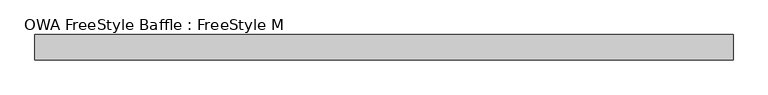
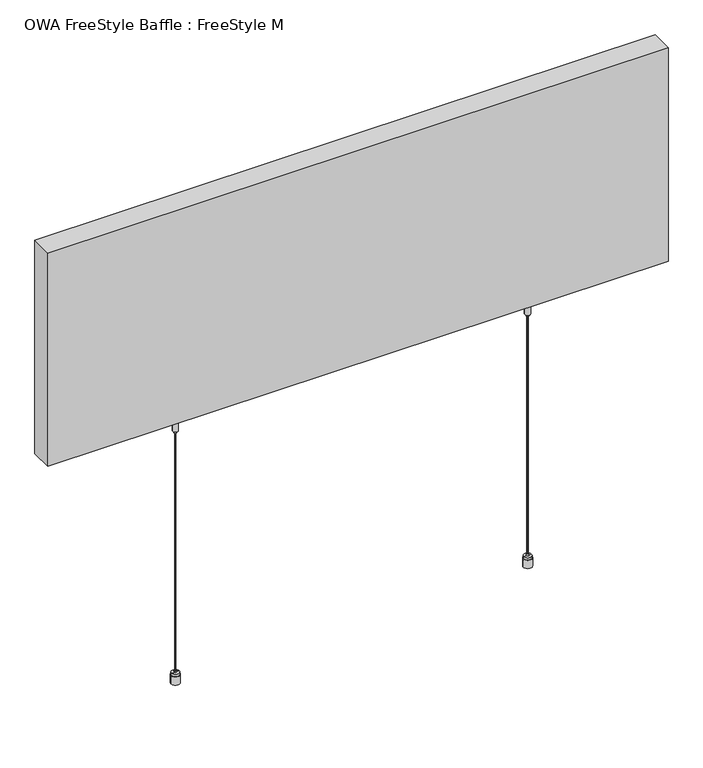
"""IFC4 building model written with IfcOpenShell, lengths in millimetres: proxy geometry, OWA FreeStyle Baffle : FreeStyle M."""

from ifc_helpers import new_model, si_unit, point, frame, frame_2d, origin, place, context, project, spatial, polyline, circle_curve, trimmed, segment, composite_curve, outline, extrude, source, transform, mapped, element, save
from ifc_brep_helpers import plane_surface, cylinder_surface, revolved_surface, advanced_brep


def owa_freestyle_baffle_freestyle_m_6130938e(model_context):
    return source(origin(), model_context, "Body", "SolidModel", [
        advanced_brep(
        [(-746.0, 0.0, 0.0), (-738.2593825, 0.0, 0.0), (-753.7406175, 0.0, 0.0), (-738.2593825, 0.0, 15.0), (-753.7406175, 0.0, 15.0), (-739.1843825, 0.0, 15.0), (-752.8156175, 0.0, 15.0), (-739.1843825, 0.0, 19.0), (-752.8156175, 0.0, 19.0), (-743.9343825, 0.0, 19.0), (-748.0656175, 0.0, 19.0), (-743.9343825, 0.0, 22.546183), (-748.0656175, 0.0, 22.546183), (-746.0, 0.0, 22.546183)],
        [
            (0, 1),
            (1, 2, circle_curve(frame((-746.0, 0.0, 0.0), z_axis=(0.0, 0.0, -1.0), x_axis=(-1.0, 0.0, 0.0)), 7.7406175)),
            (2, 0),
            (2, 1, circle_curve(frame((-746.0, 0.0, 0.0), z_axis=(0.0, 0.0, -1.0), x_axis=(-1.0, 0.0, 0.0)), 7.7406175)),
            (1, 3),
            (3, 4, circle_curve(frame((-746.0, 0.0, 15.0), z_axis=(0.0, 0.0, -1.0), x_axis=(-1.0, 0.0, 0.0)), 7.7406175)),
            (4, 2),
            (4, 3, circle_curve(frame((-746.0, 0.0, 15.0), z_axis=(0.0, 0.0, -1.0), x_axis=(-1.0, 0.0, 0.0)), 7.7406175)),
            (3, 5),
            (5, 6, circle_curve(frame((-746.0, 0.0, 15.0), z_axis=(0.0, 0.0, -1.0), x_axis=(-1.0, 0.0, 0.0)), 6.8156175)),
            (6, 4),
            (6, 5, circle_curve(frame((-746.0, 0.0, 15.0), z_axis=(0.0, 0.0, -1.0), x_axis=(-1.0, 0.0, 0.0)), 6.8156175)),
            (5, 7),
            (7, 8, circle_curve(frame((-746.0, 0.0, 19.0), z_axis=(0.0, 0.0, -1.0), x_axis=(-1.0, 0.0, 0.0)), 6.8156175)),
            (8, 6),
            (8, 7, circle_curve(frame((-746.0, 0.0, 19.0), z_axis=(0.0, 0.0, -1.0), x_axis=(-1.0, 0.0, 0.0)), 6.8156175)),
            (7, 9),
            (9, 10, circle_curve(frame((-746.0, 0.0, 19.0), z_axis=(0.0, 0.0, -1.0), x_axis=(-1.0, 0.0, 0.0)), 2.0656175)),
            (10, 8),
            (10, 9, circle_curve(frame((-746.0, 0.0, 19.0), z_axis=(0.0, 0.0, -1.0), x_axis=(-1.0, 0.0, 0.0)), 2.0656175)),
            (9, 11),
            (11, 12, circle_curve(frame((-746.0, 0.0, 22.546183), z_axis=(0.0, 0.0, -1.0), x_axis=(-1.0, 0.0, 0.0)), 2.0656175)),
            (12, 10),
            (12, 11, circle_curve(frame((-746.0, 0.0, 22.546183), z_axis=(0.0, 0.0, -1.0), x_axis=(-1.0, 0.0, 0.0)), 2.0656175)),
            (11, 13),
            (13, 12),
        ],
        [
            plane_surface(frame((-746.0, 0.0, 0.0), z_axis=(0.0, 0.0, -1.0), x_axis=(-1.0, 0.0, 0.0))),
            cylinder_surface(frame((-746.0, 0.0, -10.0), z_axis=(0.0, 0.0, -1.0), x_axis=(-1.0, 0.0, 0.0)), 7.7406175),
            plane_surface(frame((-746.0, 0.0, 15.0), z_axis=(0.0, 0.0, 1.0), x_axis=(-1.0, 0.0, 0.0))),
            cylinder_surface(frame((-746.0, 0.0, -10.0), z_axis=(0.0, 0.0, -1.0), x_axis=(-1.0, 0.0, 0.0)), 6.8156175),
            plane_surface(frame((-746.0, 0.0, 19.0), z_axis=(0.0, 0.0, 1.0), x_axis=(-1.0, 0.0, 0.0))),
            cylinder_surface(frame((-746.0, 0.0, -10.0), z_axis=(0.0, 0.0, -1.0), x_axis=(-1.0, 0.0, 0.0)), 2.0656175),
            plane_surface(frame((-746.0, 0.0, 22.546183), z_axis=(0.0, 0.0, 1.0), x_axis=(-1.0, 0.0, 0.0))),
        ],
        [
            (0, [[1, 2, 3]]),
            (0, [[-3, 4, -1]]),
            (1, [[5, 6, 7, -2]]),
            (1, [[-7, 8, -5, -4]]),
            (2, [[9, 10, 11, -6]]),
            (2, [[-11, 12, -9, -8]]),
            (3, [[13, 14, 15, -10]]),
            (3, [[-15, 16, -13, -12]]),
            (4, [[17, 18, 19, -14]]),
            (4, [[-19, 20, -17, -16]]),
            (5, [[21, 22, 23, -18]]),
            (5, [[-23, 24, -21, -20]]),
            (6, [[25, 26, -22]]),
            (6, [[-26, -25, -24]]),
        ],
    ),
        advanced_brep(
        [(-743.7615389, 0.0, 468.8211737), (-743.6339453, 0.0, 472.8711737), (-748.3660547, 0.0, 472.8711737), (-748.2384611, 0.0, 468.8211737), (-741.1339453, 0.0, 472.8711737), (-750.8660547, 0.0, 472.8711737), (-741.1339453, 0.0, 498.1211737), (-750.8660547, 0.0, 498.1211737), (-730.1339453, 0.0, 498.1211737), (-761.8660547, 0.0, 498.1211737), (-730.1339453, 0.0, 500.0), (-761.8660547, 0.0, 500.0), (-746.0, 0.0, 500.0), (-746.0, 0.0, 468.8211737)],
        [
            (0, 1),
            (1, 2, circle_curve(frame((-746.0, 0.0, 472.8711737), z_axis=(0.0, 0.0, -1.0), x_axis=(-1.0, 0.0, 0.0)), 2.3660547)),
            (2, 3),
            (3, 0, circle_curve(frame((-746.0, 0.0, 468.8211737), z_axis=(0.0, 0.0, 1.0), x_axis=(-1.0, 0.0, 0.0)), 2.2384611)),
            (2, 1, circle_curve(frame((-746.0, 0.0, 472.8711737), z_axis=(0.0, 0.0, -1.0), x_axis=(-1.0, 0.0, 0.0)), 2.3660547)),
            (0, 3, circle_curve(frame((-746.0, 0.0, 468.8211737), z_axis=(0.0, 0.0, 1.0), x_axis=(-1.0, 0.0, 0.0)), 2.2384611)),
            (1, 4),
            (4, 5, circle_curve(frame((-746.0, 0.0, 472.8711737), z_axis=(0.0, 0.0, -1.0), x_axis=(-1.0, 0.0, 0.0)), 4.8660547)),
            (5, 2),
            (5, 4, circle_curve(frame((-746.0, 0.0, 472.8711737), z_axis=(0.0, 0.0, -1.0), x_axis=(-1.0, 0.0, 0.0)), 4.8660547)),
            (4, 6),
            (6, 7, circle_curve(frame((-746.0, 0.0, 498.1211737), z_axis=(0.0, 0.0, -1.0), x_axis=(-1.0, 0.0, 0.0)), 4.8660547)),
            (7, 5),
            (7, 6, circle_curve(frame((-746.0, 0.0, 498.1211737), z_axis=(0.0, 0.0, -1.0), x_axis=(-1.0, 0.0, 0.0)), 4.8660547)),
            (6, 8),
            (8, 9, circle_curve(frame((-746.0, 0.0, 498.1211737), z_axis=(0.0, 0.0, -1.0), x_axis=(-1.0, 0.0, 0.0)), 15.8660547)),
            (9, 7),
            (9, 8, circle_curve(frame((-746.0, 0.0, 498.1211737), z_axis=(0.0, 0.0, -1.0), x_axis=(-1.0, 0.0, 0.0)), 15.8660547)),
            (8, 10),
            (10, 11, circle_curve(frame((-746.0, 0.0, 500.0), z_axis=(0.0, 0.0, -1.0), x_axis=(-1.0, 0.0, 0.0)), 15.8660547)),
            (11, 9),
            (11, 10, circle_curve(frame((-746.0, 0.0, 500.0), z_axis=(0.0, 0.0, -1.0), x_axis=(-1.0, 0.0, 0.0)), 15.8660547)),
            (10, 12),
            (12, 11),
            (13, 0),
            (3, 13),
        ],
        [
            revolved_surface(polyline([(-748.3660547, 0.0, 472.8711737), (-748.2384611, 0.0, 468.8211737)]), (-746.0, 0.0, 501.8401096), (0.0, 0.0, -1.0)),
            plane_surface(frame((-746.0, 0.0, 472.8711737), z_axis=(0.0, 0.0, -1.0), x_axis=(-1.0, 0.0, 0.0))),
            cylinder_surface(frame((-746.0, 0.0, 501.8401096), z_axis=(0.0, 0.0, -1.0), x_axis=(-1.0, 0.0, 0.0)), 4.8660547),
            plane_surface(frame((-746.0, 0.0, 498.1211737), z_axis=(0.0, 0.0, -1.0), x_axis=(-1.0, 0.0, 0.0))),
            cylinder_surface(frame((-746.0, 0.0, 501.8401096), z_axis=(0.0, 0.0, -1.0), x_axis=(-1.0, 0.0, 0.0)), 15.8660547),
            plane_surface(frame((-746.0, 0.0, 500.0), z_axis=(0.0, 0.0, 1.0), x_axis=(-1.0, 0.0, 0.0))),
            plane_surface(frame((-746.0, 0.0, 468.8211737), z_axis=(0.0, 0.0, -1.0), x_axis=(-1.0, 0.0, 0.0))),
        ],
        [
            (0, [[1, 2, 3, 4]]),
            (0, [[-3, 5, -1, 6]]),
            (1, [[7, 8, 9, -2]]),
            (1, [[-9, 10, -7, -5]]),
            (2, [[11, 12, 13, -8]]),
            (2, [[-13, 14, -11, -10]]),
            (3, [[15, 16, 17, -12]]),
            (3, [[-17, 18, -15, -14]]),
            (4, [[19, 20, 21, -16]]),
            (4, [[-21, 22, -19, -18]]),
            (5, [[23, 24, -20]]),
            (5, [[-24, -23, -22]]),
            (6, [[25, -4, 26]]),
            (6, [[-26, -6, -25]]),
        ],
    ),
        extrude(outline(composite_curve([segment(trimmed(circle_curve(frame_2d((-746.0, 0.0)), 1.0), [point((-747.0, 0.0))], [point((-745.0, 0.0))], False, "CARTESIAN"), True, "CONTINUOUS"), segment(trimmed(circle_curve(frame_2d((-746.0, 0.0)), 1.0), [point((-745.0, 0.0))], [point((-747.0, 0.0))], False, "CARTESIAN"), True, "CONTINUOUS")], self_intersect=False)), frame((0.0, 0.0, 22.546183), z_axis=(0.0, 0.0, 1.0), x_axis=(1.0, 0.0, 0.0)), (0.0, 0.0, 1.0), 446.2749908),
        advanced_brep(
        [(-121.0, 0.0, 0.0), (-113.2593825, 0.0, 0.0), (-128.7406175, 0.0, 0.0), (-113.2593825, 0.0, 15.0), (-128.7406175, 0.0, 15.0), (-114.1843825, 0.0, 15.0), (-127.8156175, 0.0, 15.0), (-114.1843825, 0.0, 19.0), (-127.8156175, 0.0, 19.0), (-118.9343825, 0.0, 19.0), (-123.0656175, 0.0, 19.0), (-118.9343825, 0.0, 22.546183), (-123.0656175, 0.0, 22.546183), (-121.0, 0.0, 22.546183)],
        [
            (0, 1),
            (1, 2, circle_curve(frame((-121.0, 0.0, 0.0), z_axis=(0.0, 0.0, -1.0), x_axis=(1.0, 0.0, 0.0)), 7.7406175)),
            (2, 0),
            (2, 1, circle_curve(frame((-121.0, 0.0, 0.0), z_axis=(0.0, 0.0, -1.0), x_axis=(1.0, 0.0, 0.0)), 7.7406175)),
            (1, 3),
            (3, 4, circle_curve(frame((-121.0, 0.0, 15.0), z_axis=(0.0, 0.0, -1.0), x_axis=(1.0, 0.0, 0.0)), 7.7406175)),
            (4, 2),
            (4, 3, circle_curve(frame((-121.0, 0.0, 15.0), z_axis=(0.0, 0.0, -1.0), x_axis=(1.0, 0.0, 0.0)), 7.7406175)),
            (3, 5),
            (5, 6, circle_curve(frame((-121.0, 0.0, 15.0), z_axis=(0.0, 0.0, -1.0), x_axis=(1.0, 0.0, 0.0)), 6.8156175)),
            (6, 4),
            (6, 5, circle_curve(frame((-121.0, 0.0, 15.0), z_axis=(0.0, 0.0, -1.0), x_axis=(1.0, 0.0, 0.0)), 6.8156175)),
            (5, 7),
            (7, 8, circle_curve(frame((-121.0, 0.0, 19.0), z_axis=(0.0, 0.0, -1.0), x_axis=(1.0, 0.0, 0.0)), 6.8156175)),
            (8, 6),
            (8, 7, circle_curve(frame((-121.0, 0.0, 19.0), z_axis=(0.0, 0.0, -1.0), x_axis=(1.0, 0.0, 0.0)), 6.8156175)),
            (7, 9),
            (9, 10, circle_curve(frame((-121.0, 0.0, 19.0), z_axis=(0.0, 0.0, -1.0), x_axis=(1.0, 0.0, 0.0)), 2.0656175)),
            (10, 8),
            (10, 9, circle_curve(frame((-121.0, 0.0, 19.0), z_axis=(0.0, 0.0, -1.0), x_axis=(1.0, 0.0, 0.0)), 2.0656175)),
            (9, 11),
            (11, 12, circle_curve(frame((-121.0, 0.0, 22.546183), z_axis=(0.0, 0.0, -1.0), x_axis=(1.0, 0.0, 0.0)), 2.0656175)),
            (12, 10),
            (12, 11, circle_curve(frame((-121.0, 0.0, 22.546183), z_axis=(0.0, 0.0, -1.0), x_axis=(1.0, 0.0, 0.0)), 2.0656175)),
            (11, 13),
            (13, 12),
        ],
        [
            plane_surface(frame((-121.0, 0.0, 0.0), z_axis=(0.0, 0.0, -1.0), x_axis=(1.0, 0.0, 0.0))),
            cylinder_surface(frame((-121.0, 0.0, -10.0), z_axis=(0.0, 0.0, -1.0), x_axis=(1.0, 0.0, 0.0)), 7.7406175),
            plane_surface(frame((-121.0, 0.0, 15.0), z_axis=(0.0, 0.0, 1.0), x_axis=(1.0, 0.0, 0.0))),
            cylinder_surface(frame((-121.0, 0.0, -10.0), z_axis=(0.0, 0.0, -1.0), x_axis=(1.0, 0.0, 0.0)), 6.8156175),
            plane_surface(frame((-121.0, 0.0, 19.0), z_axis=(0.0, 0.0, 1.0), x_axis=(1.0, 0.0, 0.0))),
            cylinder_surface(frame((-121.0, 0.0, -10.0), z_axis=(0.0, 0.0, -1.0), x_axis=(1.0, 0.0, 0.0)), 2.0656175),
            plane_surface(frame((-121.0, 0.0, 22.546183), z_axis=(0.0, 0.0, 1.0), x_axis=(1.0, 0.0, 0.0))),
        ],
        [
            (0, [[1, 2, 3]]),
            (0, [[-3, 4, -1]]),
            (1, [[-2, 5, 6, 7]]),
            (1, [[-4, -7, 8, -5]]),
            (2, [[-6, 9, 10, 11]]),
            (2, [[-8, -11, 12, -9]]),
            (3, [[-10, 13, 14, 15]]),
            (3, [[-12, -15, 16, -13]]),
            (4, [[-14, 17, 18, 19]]),
            (4, [[-16, -19, 20, -17]]),
            (5, [[-18, 21, 22, 23]]),
            (5, [[-20, -23, 24, -21]]),
            (6, [[-22, 25, 26]]),
            (6, [[-24, -26, -25]]),
        ],
    ),
        advanced_brep(
        [(-123.2384611, 0.0, 468.8211737), (-118.7615389, 0.0, 468.8211737), (-118.6339453, 0.0, 472.8711737), (-123.3660547, 0.0, 472.8711737), (-116.1339453, 0.0, 472.8711737), (-125.8660547, 0.0, 472.8711737), (-116.1339453, 0.0, 498.1211737), (-125.8660547, 0.0, 498.1211737), (-105.1339453, 0.0, 498.1211737), (-136.8660547, 0.0, 498.1211737), (-105.1339453, 0.0, 500.0), (-136.8660547, 0.0, 500.0), (-121.0, 0.0, 500.0), (-121.0, 0.0, 468.8211737)],
        [
            (0, 1, circle_curve(frame((-121.0, 0.0, 468.8211737), z_axis=(0.0, 0.0, 1.0), x_axis=(1.0, 0.0, 0.0)), 2.2384611)),
            (1, 2),
            (2, 3, circle_curve(frame((-121.0, 0.0, 472.8711737), z_axis=(0.0, 0.0, -1.0), x_axis=(1.0, 0.0, 0.0)), 2.3660547)),
            (3, 0),
            (1, 0, circle_curve(frame((-121.0, 0.0, 468.8211737), z_axis=(0.0, 0.0, 1.0), x_axis=(1.0, 0.0, 0.0)), 2.2384611)),
            (3, 2, circle_curve(frame((-121.0, 0.0, 472.8711737), z_axis=(0.0, 0.0, -1.0), x_axis=(1.0, 0.0, 0.0)), 2.3660547)),
            (2, 4),
            (4, 5, circle_curve(frame((-121.0, 0.0, 472.8711737), z_axis=(0.0, 0.0, -1.0), x_axis=(1.0, 0.0, 0.0)), 4.8660547)),
            (5, 3),
            (5, 4, circle_curve(frame((-121.0, 0.0, 472.8711737), z_axis=(0.0, 0.0, -1.0), x_axis=(1.0, 0.0, 0.0)), 4.8660547)),
            (4, 6),
            (6, 7, circle_curve(frame((-121.0, 0.0, 498.1211737), z_axis=(0.0, 0.0, -1.0), x_axis=(1.0, 0.0, 0.0)), 4.8660547)),
            (7, 5),
            (7, 6, circle_curve(frame((-121.0, 0.0, 498.1211737), z_axis=(0.0, 0.0, -1.0), x_axis=(1.0, 0.0, 0.0)), 4.8660547)),
            (6, 8),
            (8, 9, circle_curve(frame((-121.0, 0.0, 498.1211737), z_axis=(0.0, 0.0, -1.0), x_axis=(1.0, 0.0, 0.0)), 15.8660547)),
            (9, 7),
            (9, 8, circle_curve(frame((-121.0, 0.0, 498.1211737), z_axis=(0.0, 0.0, -1.0), x_axis=(1.0, 0.0, 0.0)), 15.8660547)),
            (8, 10),
            (10, 11, circle_curve(frame((-121.0, 0.0, 500.0), z_axis=(0.0, 0.0, -1.0), x_axis=(1.0, 0.0, 0.0)), 15.8660547)),
            (11, 9),
            (11, 10, circle_curve(frame((-121.0, 0.0, 500.0), z_axis=(0.0, 0.0, -1.0), x_axis=(1.0, 0.0, 0.0)), 15.8660547)),
            (10, 12),
            (12, 11),
            (13, 1),
            (0, 13),
        ],
        [
            revolved_surface(polyline([(-118.6339453, 0.0, 472.8711737), (-118.7615389, 0.0, 468.8211737)]), (-121.0, 0.0, 501.8401096), (0.0, 0.0, -1.0)),
            plane_surface(frame((-121.0, 0.0, 472.8711737), z_axis=(0.0, 0.0, -1.0), x_axis=(1.0, 0.0, 0.0))),
            cylinder_surface(frame((-121.0, 0.0, 501.8401096), z_axis=(0.0, 0.0, -1.0), x_axis=(1.0, 0.0, 0.0)), 4.8660547),
            plane_surface(frame((-121.0, 0.0, 498.1211737), z_axis=(0.0, 0.0, -1.0), x_axis=(1.0, 0.0, 0.0))),
            cylinder_surface(frame((-121.0, 0.0, 501.8401096), z_axis=(0.0, 0.0, -1.0), x_axis=(1.0, 0.0, 0.0)), 15.8660547),
            plane_surface(frame((-121.0, 0.0, 500.0), z_axis=(0.0, 0.0, 1.0), x_axis=(1.0, 0.0, 0.0))),
            plane_surface(frame((-121.0, 0.0, 468.8211737), z_axis=(0.0, 0.0, -1.0), x_axis=(1.0, 0.0, 0.0))),
        ],
        [
            (0, [[1, 2, 3, 4]]),
            (0, [[5, -4, 6, -2]]),
            (1, [[-3, 7, 8, 9]]),
            (1, [[-6, -9, 10, -7]]),
            (2, [[-8, 11, 12, 13]]),
            (2, [[-10, -13, 14, -11]]),
            (3, [[-12, 15, 16, 17]]),
            (3, [[-14, -17, 18, -15]]),
            (4, [[-16, 19, 20, 21]]),
            (4, [[-18, -21, 22, -19]]),
            (5, [[-20, 23, 24]]),
            (5, [[-22, -24, -23]]),
            (6, [[25, -1, 26]]),
            (6, [[-26, -5, -25]]),
        ],
    ),
        extrude(outline(composite_curve([segment(trimmed(circle_curve(frame_2d((-121.0, 0.0)), 1.0), [point((-120.0, 0.0))], [point((-122.0, 0.0))], False, "CARTESIAN"), True, "CONTINUOUS"), segment(trimmed(circle_curve(frame_2d((-121.0, 0.0)), 1.0), [point((-122.0, 0.0))], [point((-120.0, 0.0))], False, "CARTESIAN"), True, "CONTINUOUS")], self_intersect=False)), frame((0.0, 0.0, 22.546183), z_axis=(0.0, 0.0, 1.0), x_axis=(1.0, 0.0, 0.0)), (0.0, 0.0, 1.0), 446.2749908),
        extrude(outline(polyline([(116.5, -20.0), (-983.5, -20.0), (-983.5, 20.0), (116.5, 20.0), (116.5, -20.0)])), frame((0.0, 0.0, 500.0), z_axis=(0.0, 0.0, 1.0), x_axis=(1.0, 0.0, 0.0)), (0.0, 0.0, 1.0), 400.0),
    ])


if __name__ == "__main__":
    model = new_model("IFC4")
    model_context = context("Model", 3, world=origin())
    ifc_project = project(units=[si_unit("LENGTHUNIT", "METRE", prefix="MILLI")], contexts=[model_context])
    site = spatial("IfcSite", under=ifc_project)
    building = spatial("IfcBuilding", under=site)
    placement = place(None, origin())
    owa_freestyle_baffle_freestyle_m_shape = owa_freestyle_baffle_freestyle_m_6130938e(model_context)
    element("IfcBuildingElementProxy", 1, Name="OWA FreeStyle Baffle : FreeStyle M", ObjectType="OWA FreeStyle Baffle : FreeStyle M", at=placement, inside=building, context=model_context, shape_type="MappedRepresentation", body=[
        mapped(owa_freestyle_baffle_freestyle_m_shape, transform((0.0, 0.0, 0.0), x_axis=(1.0, 0.0, 0.0), y_axis=(0.0, 1.0, 0.0), z_axis=(0.0, 0.0, 1.0))),
    ])
    save(model, "model.ifc")
